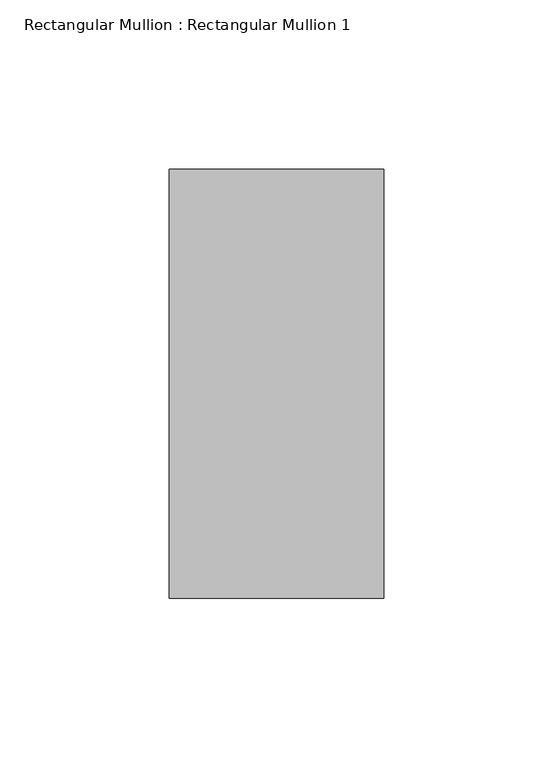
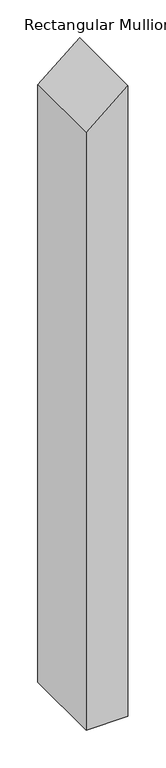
"""IFC4 building model written with IfcOpenShell, lengths in millimetres: member geometry, Rectangular Mullion : Rectangular Mullion 1."""

import ifcopenshell
import ifcopenshell.guid

model = None  # the IFC model being written
_history = None  # IfcOwnerHistory: only IFC2X3 demands one
_inside = {}  # id of a spatial element -> (the spatial element, [elements in it])
_under = {}  # id of a project, library or spatial element -> (it, [spatial elements below it])
_declared = {}  # id of a project -> (the project, [libraries it declares])
_typed = {}  # id of a type object -> (the type object, [elements of that type])
_made_of = {}  # id of a material, layer set ... -> (it, [elements and type objects made of it])


def new_model(schema):
    """Start an empty IFC model of exactly this schema.

    Asked for "IFC4X3", IfcOpenShell would pick the latest addendum, in which some entities
    have other attributes; the version numbers below select the first issue.
    IFC2X3 requires an IfcOwnerHistory on every rooted entity: one is made here for all.
    """
    global model, _history
    if schema == "IFC4X3":
        model = ifcopenshell.file(schema_version=(4, 3, 0, 0))
    else:
        model = ifcopenshell.file(schema=schema)
    _inside.clear()
    _under.clear()
    _declared.clear()
    _typed.clear()
    _made_of.clear()
    _history = None
    if model.schema == "IFC2X3":
        org = make("IfcOrganization", Name="unknown")
        user = make(
            "IfcPersonAndOrganization",
            ThePerson=make("IfcPerson", FamilyName="unknown"),
            TheOrganization=org,
        )
        app = make(
            "IfcApplication",
            ApplicationDeveloper=org,
            Version="unknown",
            ApplicationFullName="unknown",
            ApplicationIdentifier="unknown",
        )
        _history = make(
            "IfcOwnerHistory",
            OwningUser=user,
            OwningApplication=app,
            ChangeAction="ADDED",
            CreationDate=0,
        )
    return model


def make(cls, **values):
    """One entity of the class cls with the attributes given. An attribute that is None is left unset."""
    return model.create_entity(
        cls, **{name: value for name, value in values.items() if value is not None}
    )


def rooted(cls, **values):
    """An entity with a GlobalId (a new one), such as an element, a storey or a relation."""
    return make(cls, GlobalId=ifcopenshell.guid.new(), OwnerHistory=_history, **values)


def si_unit(unit_type, name, prefix=None):
    """IfcSIUnit, for example si_unit("LENGTHUNIT", "METRE", prefix="MILLI")."""
    return make("IfcSIUnit", UnitType=unit_type, Prefix=prefix, Name=name)


def assignment(units):
    """IfcUnitAssignment: the units of a project."""
    return None if units is None else make("IfcUnitAssignment", Units=units)


def point(xyz):
    """IfcCartesianPoint."""
    return None if xyz is None else make("IfcCartesianPoint", Coordinates=xyz)


def direction(xyz):
    """IfcDirection."""
    return None if xyz is None else make("IfcDirection", DirectionRatios=xyz)


def frame(location, z_axis=None, x_axis=None):
    """IfcAxis2Placement3D, a coordinate frame: its origin and axes. An axis left out is left unset."""
    return make(
        "IfcAxis2Placement3D",
        Location=point(location),
        Axis=direction(z_axis),
        RefDirection=direction(x_axis),
    )


def origin():
    """The frame at (0, 0, 0) with its axes left unset."""
    return frame((0.0, 0.0, 0.0))


def place(relative_to, where):
    """IfcLocalPlacement: puts the frame where relative to a parent placement (None: the world)."""
    return make(
        "IfcLocalPlacement", PlacementRelTo=relative_to, RelativePlacement=where
    )


def context(
    kind, dimensions, precision=None, world=None, true_north=None, identifier=None
):
    """IfcGeometricRepresentationContext, for example the 3D "Model" context."""
    return make(
        "IfcGeometricRepresentationContext",
        ContextIdentifier=identifier,
        ContextType=kind,
        CoordinateSpaceDimension=dimensions,
        Precision=precision,
        WorldCoordinateSystem=world,
        TrueNorth=true_north,
    )


def project(units=None, contexts=None):
    """IfcProject with its units and contexts."""
    return rooted(
        "IfcProject",
        Name="project",
        RepresentationContexts=contexts,
        UnitsInContext=assignment(units),
    )


def spatial(cls, under=None, at=None, **own):
    """A site, building, storey or space (cls), placed at a placement, below another one or the project."""
    s = rooted(cls, ObjectPlacement=at, **own)
    if under is not None:
        _under.setdefault(under.id(), (under, []))[1].append(s)
    return s


def polyline(points):
    """IfcPolyline through the points."""
    return make("IfcPolyline", Points=[point(p) for p in points])


def outline(outer, holes=None, kind="AREA"):
    """IfcArbitraryClosedProfileDef: a profile drawn as a closed curve; with holes, ...WithVoids."""
    if holes is None:
        return make("IfcArbitraryClosedProfileDef", ProfileType=kind, OuterCurve=outer)
    return make(
        "IfcArbitraryProfileDefWithVoids",
        ProfileType=kind,
        OuterCurve=outer,
        InnerCurves=holes,
    )


def extrude(swept, where, along, depth):
    """IfcExtrudedAreaSolid: the profile swept, set in the frame where, extruded along a direction by depth."""
    return make(
        "IfcExtrudedAreaSolid",
        SweptArea=swept,
        Position=where,
        ExtrudedDirection=direction(along),
        Depth=depth,
    )


def shape(context_of_items, identifier, shape_type, items):
    """IfcShapeRepresentation: the items that make up one representation, for example the "Body"."""
    return make(
        "IfcShapeRepresentation",
        ContextOfItems=context_of_items,
        RepresentationIdentifier=identifier,
        RepresentationType=shape_type,
        Items=items,
    )


def source(mapping_origin, context_of_items, identifier, shape_type, items):
    """IfcRepresentationMap: a shape defined once, which mapped items show again and again."""
    return make(
        "IfcRepresentationMap",
        MappingOrigin=mapping_origin,
        MappedRepresentation=shape(context_of_items, identifier, shape_type, items),
    )


def transform(
    local_origin,
    x_axis=None,
    y_axis=None,
    z_axis=None,
    scale=None,
    scale2=None,
    scale3=None,
    uniform=True,
):
    """IfcCartesianTransformationOperator3D, or its non-uniform kind. x_axis, y_axis, z_axis: its Axis1, 2, 3."""
    if uniform:
        return make(
            "IfcCartesianTransformationOperator3D",
            Axis1=direction(x_axis),
            Axis2=direction(y_axis),
            LocalOrigin=point(local_origin),
            Scale=scale,
            Axis3=direction(z_axis),
        )
    return make(
        "IfcCartesianTransformationOperator3DnonUniform",
        Axis1=direction(x_axis),
        Axis2=direction(y_axis),
        LocalOrigin=point(local_origin),
        Scale=scale,
        Axis3=direction(z_axis),
        Scale2=scale2,
        Scale3=scale3,
    )


def mapped(mapping_source, mapping_target):
    """IfcMappedItem: shows the shape of a source again, moved by a transform."""
    return make(
        "IfcMappedItem", MappingSource=mapping_source, MappingTarget=mapping_target
    )


def made_of(thing, what):
    """Note that an element or type object is made of a material, layer set ...; save() writes the relation."""
    if what is not None:
        _made_of.setdefault(what.id(), (what, []))[1].append(thing)
    return thing


def element(
    cls,
    number,
    at=None,
    inside=None,
    cuts=None,
    type_object=None,
    material=None,
    context=None,
    identifier="Body",
    shape_type=None,
    held_by="IfcProductDefinitionShape",
    body=None,
    shapes=None,
    **own,
):
    """One element of the class cls, such as IfcWall. Its Tag is "e" and its number.

    at: its placement. inside: the storey or other place that contains it. cuts: it is an
    opening in that element (IfcRelVoidsElement). A single representation is given by context,
    identifier, shape_type and body (its items); several are given by shapes. held_by: the class
    of the entity that holds the representations. save() writes the other relations.
    """
    e = rooted(cls, Tag="e%d" % number, ObjectPlacement=at, **own)
    if body is not None:
        shapes = [shape(context, identifier, shape_type, body)]
    if shapes is not None:
        e.Representation = make(held_by, Representations=shapes)
    if inside is not None:
        _inside.setdefault(inside.id(), (inside, []))[1].append(e)
    if cuts is not None:
        rooted(
            "IfcRelVoidsElement", RelatingBuildingElement=cuts, RelatedOpeningElement=e
        )
    if type_object is not None:
        _typed.setdefault(type_object.id(), (type_object, []))[1].append(e)
    return made_of(e, material)


def aggregate(whole, parts):
    """IfcRelAggregates: a whole, such as a stair, and the parts it consists of."""
    return rooted("IfcRelAggregates", RelatingObject=whole, RelatedObjects=parts)


def save(model, path):
    """Write the relations noted so far, then the file.

    IfcRelAggregates (storeys below a building ...), IfcRelContainedInSpatialStructure (elements
    in a storey), IfcRelDefinesByType, IfcRelAssociatesMaterial and IfcRelDeclares: one each for
    every whole, place, type object, material and project.
    """
    for whole, parts in _under.values():
        aggregate(whole, parts)
    for where, things in _inside.values():
        rooted(
            "IfcRelContainedInSpatialStructure",
            RelatedElements=things,
            RelatingStructure=where,
        )
    for kind, things in _typed.values():
        rooted("IfcRelDefinesByType", RelatedObjects=things, RelatingType=kind)
    for what, things in _made_of.values():
        rooted("IfcRelAssociatesMaterial", RelatedObjects=things, RelatingMaterial=what)
    for by, libraries in _declared.values():
        rooted("IfcRelDeclares", RelatingContext=by, RelatedDefinitions=libraries)
    model.write(path)


def rectangular_mullion_rectangular_mullion_1_eb8fac3f(model_context):
    return source(origin(), model_context, "Body", "SweptSolid", [
        extrude(outline(polyline([(0.0, 0.0), (-53.2828266, -63.5), (-1013.4042206, -63.5), (-1013.4042206, 0.0), (0.0, 0.0)])), frame((0.0, -63.5, 0.0), z_axis=(0.0, 1.0, 0.0), x_axis=(0.0, 0.0, 1.0)), (0.0, 0.0, 1.0), 127.0),
    ])


if __name__ == "__main__":
    model = new_model("IFC4")
    model_context = context("Model", 3, world=origin())
    ifc_project = project(units=[si_unit("LENGTHUNIT", "METRE", prefix="MILLI")], contexts=[model_context])
    site = spatial("IfcSite", under=ifc_project)
    building = spatial("IfcBuilding", under=site)
    placement = place(None, origin())
    rectangular_mullion_rectangular_mullion_1_shape = rectangular_mullion_rectangular_mullion_1_eb8fac3f(model_context)
    element("IfcMember", 1, ObjectType="Rectangular Mullion : Rectangular Mullion 1", at=placement, inside=building, context=model_context, shape_type="MappedRepresentation", body=[
        mapped(rectangular_mullion_rectangular_mullion_1_shape, transform((0.0, 0.0, 0.0), x_axis=(1.0, 0.0, 0.0), y_axis=(0.0, 1.0, 0.0), z_axis=(0.0, 0.0, 1.0))),
    ])
    save(model, "model.ifc")
